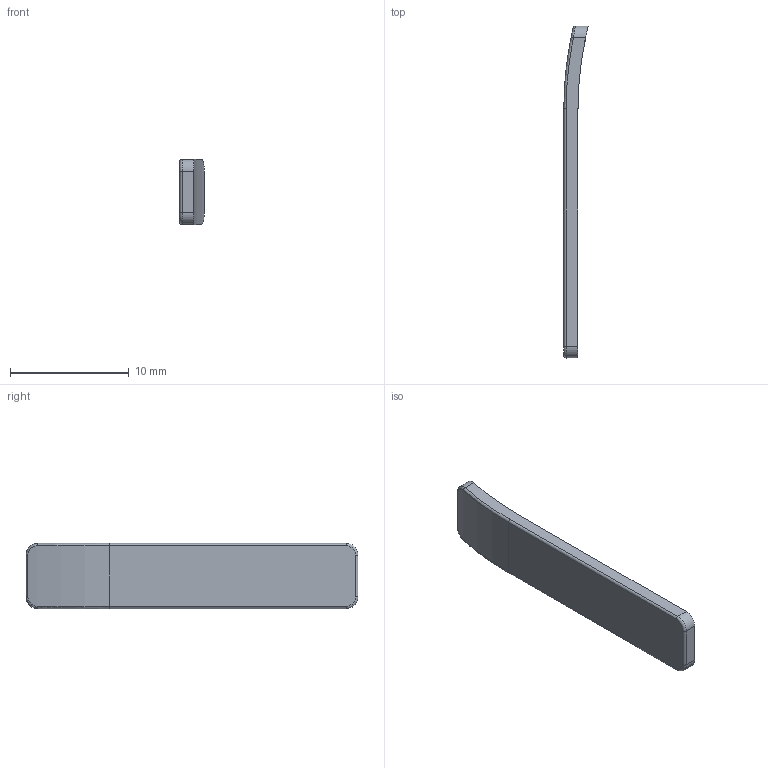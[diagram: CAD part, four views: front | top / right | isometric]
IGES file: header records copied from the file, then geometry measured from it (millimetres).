
Start section:  PTC IGES file: id-gtc-sd-cov_prt.igs
Global section: file name: id-gtc-sd-cov_prt.igs; native system: Pro/ENGINEER by Parametric Technology Corporation; preprocessor: 2006170; author: GRA; organization: Unknown; date: 20080630.105157; units: millimetre
Bounding box: 2.06 x 28 x 5.5 mm (x, y, z)
Surface area: 380.2 mm2 (no closed solid volume)
Topology: 0 solids, 0 shells, 22 faces, 100 edges, 100 vertices
Faces by surface type: revolution 14, bspline 8
